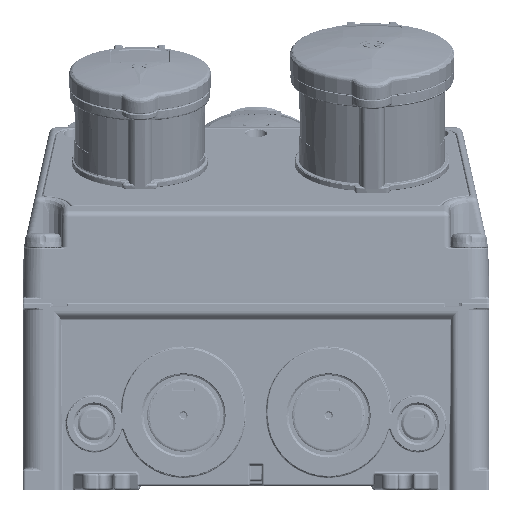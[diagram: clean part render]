
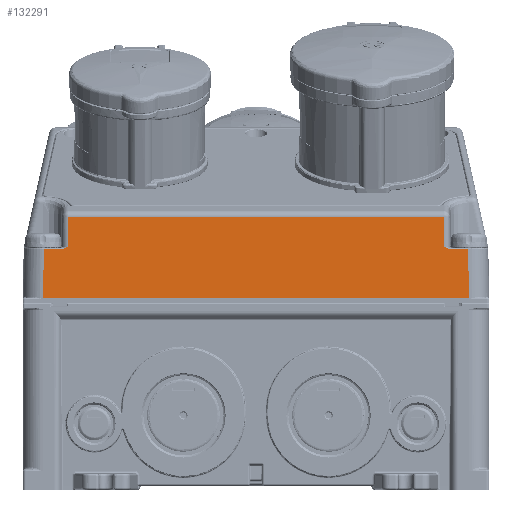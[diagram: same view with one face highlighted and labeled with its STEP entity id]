
A CAD part, front view. The second image highlights one B-rep face of the part: STEP entity #132291.
In plain terms, the highlighted planar face has unit normal (0, -1, 0.018).
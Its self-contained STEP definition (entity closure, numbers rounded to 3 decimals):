
#958=CARTESIAN_POINT('',(203.146,0.445,117.441));
#984=DIRECTION('',(-1.,0.,0.));
#985=VECTOR('',#984,9.246);
#986=CARTESIAN_POINT('',(214.824,0.428,116.459));
#987=LINE('62285',#986,#985);
#988=CARTESIAN_POINT('',(205.578,0.428,116.459));
#1000=DIRECTION('',(0.017,-0.017,-1.));
#1001=VECTOR('',#1000,23.916);
#1002=CARTESIAN_POINT('',(214.824,0.428,116.459));
#1003=LINE('62286',#1002,#1001);
#1004=DIRECTION('',(-1.,0.,0.));
#1005=VECTOR('',#1004,205.483);
#1006=CARTESIAN_POINT('',(215.241,0.01,92.55));
#1007=LINE('62287',#1006,#1005);
#1008=DIRECTION('',(0.017,0.017,1.));
#1009=VECTOR('',#1008,23.916);
#1010=CARTESIAN_POINT('',(9.758,0.01,92.55));
#1011=LINE('62288',#1010,#1009);
#1012=CARTESIAN_POINT('',(19.422,0.428,116.459));
#1013=CARTESIAN_POINT('',(19.48,0.428,116.459));
#1014=CARTESIAN_POINT('',(19.601,0.428,116.464));
#1015=CARTESIAN_POINT('',(19.796,0.428,116.487));
#1016=CARTESIAN_POINT('',(20.009,0.429,116.531));
#1017=CARTESIAN_POINT('',(20.243,0.43,116.597));
#1018=CARTESIAN_POINT('',(20.502,0.432,116.692));
#1019=CARTESIAN_POINT('',(20.792,0.434,116.821));
#1020=CARTESIAN_POINT('',(21.112,0.437,116.988));
#1021=CARTESIAN_POINT('',(21.461,0.441,117.194));
#1022=CARTESIAN_POINT('',(21.719,0.443,117.356));
#1023=CARTESIAN_POINT('',(21.854,0.445,117.441));
#1025=DIRECTION('',(0.009,0.017,1.));
#1026=VECTOR('',#1025,14.45);
#1027=CARTESIAN_POINT('',(21.854,0.445,117.441));
#1028=LINE('62291',#1027,#1026);
#1029=DIRECTION('',(0.009,-0.017,-1.));
#1030=VECTOR('',#1029,14.45);
#1031=CARTESIAN_POINT('',(203.02,0.697,131.888));
#1032=LINE('62280',#1031,#1030);
#1033=CARTESIAN_POINT('',(203.146,0.445,117.441));
#1034=CARTESIAN_POINT('',(203.281,0.443,117.356));
#1035=CARTESIAN_POINT('',(203.539,0.441,117.194));
#1036=CARTESIAN_POINT('',(203.888,0.437,116.989));
#1037=CARTESIAN_POINT('',(204.207,0.434,116.822));
#1038=CARTESIAN_POINT('',(204.497,0.432,116.692));
#1039=CARTESIAN_POINT('',(204.757,0.43,116.597));
#1040=CARTESIAN_POINT('',(204.991,0.429,116.531));
#1041=CARTESIAN_POINT('',(205.204,0.428,116.487));
#1042=CARTESIAN_POINT('',(205.399,0.428,116.464));
#1043=CARTESIAN_POINT('',(205.52,0.428,116.459));
#1044=CARTESIAN_POINT('',(205.578,0.428,116.459));
#1058=CARTESIAN_POINT('',(214.824,0.428,116.459));
#2345=DIRECTION('',(-1.,0.,0.));
#2346=VECTOR('',#2345,181.04);
#2347=CARTESIAN_POINT('',(203.02,0.697,131.888));
#2348=LINE('62292',#2347,#2346);
#2408=DIRECTION('',(-1.,0.,0.));
#2409=VECTOR('',#2408,9.246);
#2410=CARTESIAN_POINT('',(19.422,0.428,116.459));
#2411=LINE('62289',#2410,#2409);
#111387=VERTEX_POINT('',#1058);
#111423=VERTEX_POINT('',#958);
#111424=CARTESIAN_POINT('',(203.02,0.697,
131.888));
#111425=VERTEX_POINT('',#111424);
#111426=VERTEX_POINT('',#988);
#111427=CARTESIAN_POINT('',(215.241,0.01,
92.55));
#111428=VERTEX_POINT('',#111427);
#111429=CARTESIAN_POINT('',(9.758,0.01,
92.55));
#111430=VERTEX_POINT('',#111429);
#111431=CARTESIAN_POINT('',(10.176,0.428,
116.459));
#111432=VERTEX_POINT('',#111431);
#111433=CARTESIAN_POINT('',(19.422,0.428,
116.459));
#111434=VERTEX_POINT('',#111433);
#111435=VERTEX_POINT('',#1023);
#111436=CARTESIAN_POINT('',(21.98,0.697,
131.888));
#111437=VERTEX_POINT('',#111436);
#132267=CARTESIAN_POINT('',(112.5,0.354,112.219));
#132268=DIRECTION('',(0.,1.,-0.017));
#132269=DIRECTION('',(0.,-0.017,-1.));
#132270=AXIS2_PLACEMENT_3D('',#132267,#132268,#132269);
#132271=PLANE('80506',#132270);
#132273=ORIENTED_EDGE('62286',*,*,#132272,.T.);
#132275=ORIENTED_EDGE('62287',*,*,#132274,.T.);
#132277=ORIENTED_EDGE('62288',*,*,#132276,.T.);
#132279=ORIENTED_EDGE('62289',*,*,#132278,.F.);
#132281=ORIENTED_EDGE('62290',*,*,#132280,.T.);
#132283=ORIENTED_EDGE('62291',*,*,#132282,.T.);
#132285=ORIENTED_EDGE('62292',*,*,#132284,.F.);
#132286=ORIENTED_EDGE('62280',*,*,#132107,.T.);
#132287=ORIENTED_EDGE('62284',*,*,#132234,.T.);
#132288=ORIENTED_EDGE('62285',*,*,#132253,.F.);
#132289=EDGE_LOOP('80506',(#132273,#132275,#132277,#132279,#132281,#132283,
#132285,#132286,#132287,#132288));
#132290=FACE_OUTER_BOUND('80506',#132289,.F.);
#1024=B_SPLINE_CURVE_WITH_KNOTS('62290',3,(#1012,#1013,#1014,#1015,#1016,#1017,
#1018,#1019,#1020,#1021,#1022,#1023),.UNSPECIFIED.,.F.,.F.,(4,1,1,1,1,1,1,1,1,
4),(0.,0.111,0.222,0.333,
0.444,0.556,0.667,0.778,
0.889,1.),.UNSPECIFIED.);
#1045=B_SPLINE_CURVE_WITH_KNOTS('62284',3,(#1033,#1034,#1035,#1036,#1037,#1038,
#1039,#1040,#1041,#1042,#1043,#1044),.UNSPECIFIED.,.F.,.F.,(4,1,1,1,1,1,1,1,1,
4),(0.,0.111,0.222,0.333,
0.444,0.556,0.667,0.778,
0.889,1.),.UNSPECIFIED.);
#132107=EDGE_CURVE('62280',#111425,#111423,#1032,.T.);
#132234=EDGE_CURVE('62284',#111423,#111426,#1045,.T.);
#132253=EDGE_CURVE('62285',#111387,#111426,#987,.T.);
#132272=EDGE_CURVE('62286',#111387,#111428,#1003,.T.);
#132274=EDGE_CURVE('62287',#111428,#111430,#1007,.T.);
#132276=EDGE_CURVE('62288',#111430,#111432,#1011,.T.);
#132278=EDGE_CURVE('62289',#111434,#111432,#2411,.T.);
#132280=EDGE_CURVE('62290',#111434,#111435,#1024,.T.);
#132282=EDGE_CURVE('62291',#111435,#111437,#1028,.T.);
#132284=EDGE_CURVE('62292',#111425,#111437,#2348,.T.);
#132291=ADVANCED_FACE('80506',(#132290),#132271,.F.);
